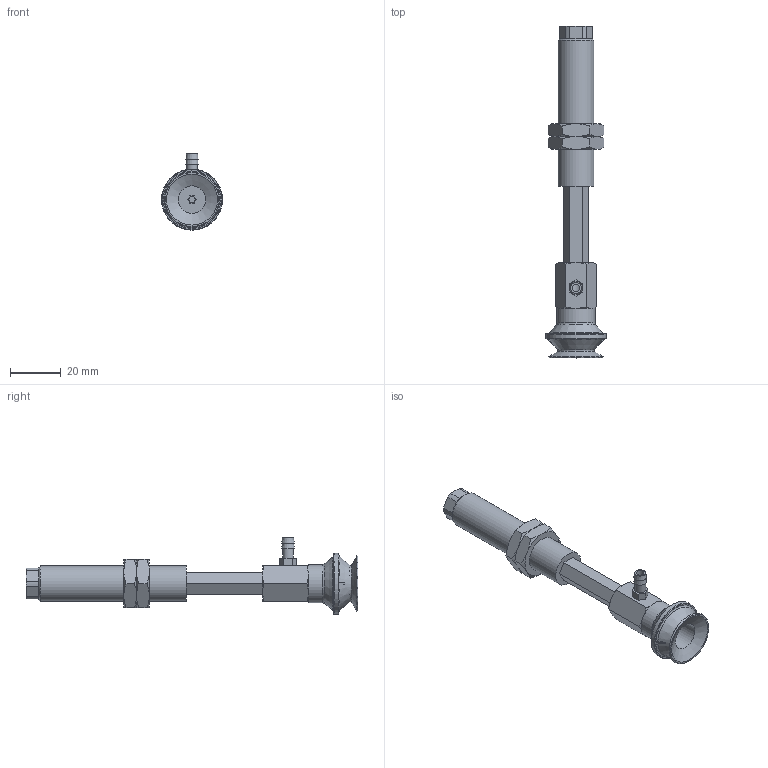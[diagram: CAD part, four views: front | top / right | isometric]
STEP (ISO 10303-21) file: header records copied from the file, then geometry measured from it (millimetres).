
FILE_DESCRIPTION(('STEP AP203'),'1');
FILE_NAME('-T.stp','2025-04-02T02:02:18',(' '),(' '),'Spatial InterOp 3D',' ',' ');
FILE_SCHEMA(('CONFIG_CONTROL_DESIGN'));
Length unit declared in the file: millimetre
Products named in the file (8): BNABPBYH-20-30-※-T; Adapter20-T-NAPB; CONNECTOR-20-30-PB; Nut-20-S-PB; NAPBTH-20-30-FBODY; NAPBTH-20-30-MBODY; BPBG-20-※; T
Assembly tree (8 placements, depth 2):
  BNABPBYH-20-30-※-T
    Adapter20-T-NAPB
    CONNECTOR-20-30-PB
    Nut-20-S-PB  x2
    NAPBTH-20-30-FBODY
    NAPBTH-20-30-MBODY
    BPBG-20-※
    T
Bounding box: 24 x 130.5 x 30 mm (x, y, z)
Volume: 19052.4 mm3; surface area: 14868.2 mm2
Topology: 8 solids, 8 shells, 183 faces, 405 edges, 251 vertices
Faces by surface type: plane 91, cone 59, cylinder 24, torus 9
Full cylindrical faces by diameter (mm): 2.5 x1, 3 x2, 4.134 x3, 4.3 x1, 4.6 x1, 5 x3, 10.8 x1, 11 x1, 12.917 x2, 14 x1, 15 x1, 24 x1
Entity records: 4802 total; most frequent: CARTESIAN_POINT 1055, DIRECTION 706, ORIENTED_EDGE 612, EDGE_CURVE 306, AXIS2_PLACEMENT_3D 283, EDGE_LOOP 228, VERTEX_POINT 214, FACE_OUTER_BOUND 184
